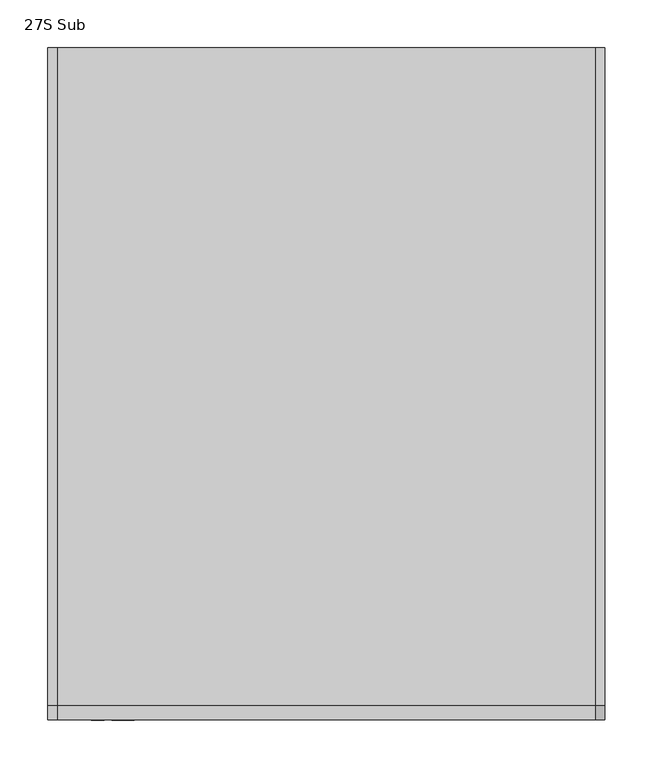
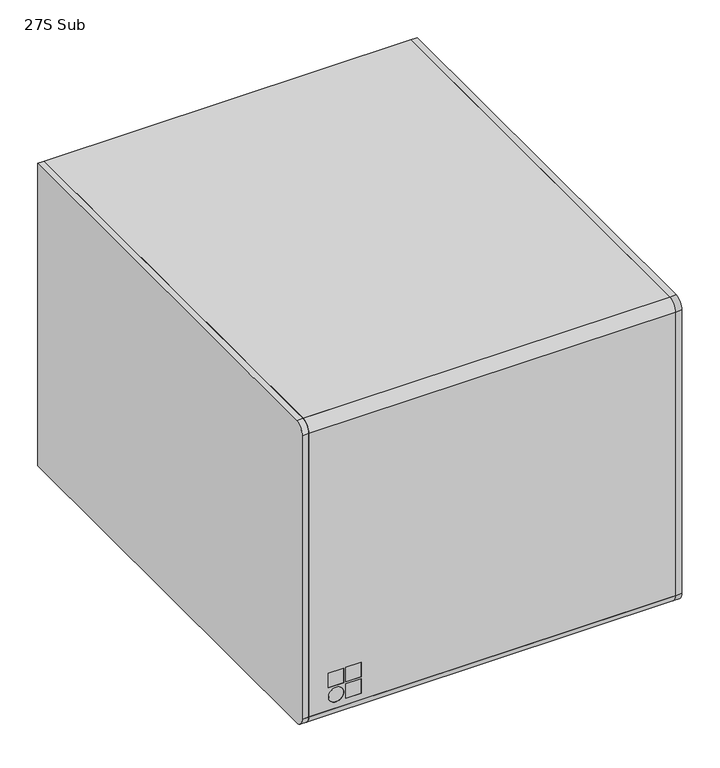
"""IFC4 building model written with IfcOpenShell, lengths in millimetres: proxy geometry, d&b xS-Series 27S Subwoofer : 27S Sub."""

from ifc_helpers import new_model, si_unit, point, frame, frame_2d, origin, place, context, project, spatial, polyline, circle_curve, trimmed, segment, composite_curve, outline, extrude, source, transform, mapped, element, save
from ifc_brep_helpers import plane_surface, cylinder_surface, revolved_surface, advanced_brep


def proxy_27s_sub_921b6ecd(model_context):
    return source(origin(), model_context, "Body", "SolidModel", [
        extrude(outline(composite_curve([segment(trimmed(circle_curve(frame_2d((-220.0, 310.0)), 18.25), [point((-201.75, 310.0))], [point((-238.25, 310.0))], False, "CARTESIAN"), True, "CONTINUOUS"), segment(trimmed(circle_curve(frame_2d((-220.0, 310.0)), 18.25), [point((-238.25, 310.0))], [point((-201.75, 310.0))], False, "CARTESIAN"), True, "CONTINUOUS")], self_intersect=False)), frame((0.0, 0.0, -247.0), z_axis=(0.0, 0.0, 1.0), x_axis=(1.0, 0.0, 0.0)), (0.0, 0.0, 1.0), 3.0),
        extrude(outline(composite_curve([segment(trimmed(circle_curve(frame_2d((220.0, 310.0)), 18.25), [point((238.25, 310.0))], [point((201.75, 310.0))], False, "CARTESIAN"), True, "CONTINUOUS"), segment(trimmed(circle_curve(frame_2d((220.0, 310.0)), 18.25), [point((201.75, 310.0))], [point((238.25, 310.0))], False, "CARTESIAN"), True, "CONTINUOUS")], self_intersect=False)), frame((0.0, 0.0, -247.0), z_axis=(0.0, 0.0, 1.0), x_axis=(1.0, 0.0, 0.0)), (0.0, 0.0, 1.0), 3.0),
        extrude(outline(composite_curve([segment(trimmed(circle_curve(frame_2d((-220.0, -285.0)), 18.25), [point((-201.75, -285.0))], [point((-238.25, -285.0))], False, "CARTESIAN"), True, "CONTINUOUS"), segment(trimmed(circle_curve(frame_2d((-220.0, -285.0)), 18.25), [point((-238.25, -285.0))], [point((-201.75, -285.0))], False, "CARTESIAN"), True, "CONTINUOUS")], self_intersect=False)), frame((0.0, 0.0, -247.0), z_axis=(0.0, 0.0, 1.0), x_axis=(1.0, 0.0, 0.0)), (0.0, 0.0, 1.0), 3.0),
        extrude(outline(composite_curve([segment(trimmed(circle_curve(frame_2d((220.0, -285.0)), 18.25), [point((238.25, -285.0))], [point((201.75, -285.0))], False, "CARTESIAN"), True, "CONTINUOUS"), segment(trimmed(circle_curve(frame_2d((220.0, -285.0)), 18.25), [point((201.75, -285.0))], [point((238.25, -285.0))], False, "CARTESIAN"), True, "CONTINUOUS")], self_intersect=False)), frame((0.0, 0.0, -247.0), z_axis=(0.0, 0.0, 1.0), x_axis=(1.0, 0.0, 0.0)), (0.0, 0.0, 1.0), 3.0),
        advanced_brep(
        [(280.0, -350.0, -229.0), (280.0, -335.0, -244.0), (280.0, -335.0, -239.0), (280.0, -345.0, -229.0), (280.0, -345.0, 229.0), (280.0, -335.0, 239.0), (280.0, -335.0, 244.0), (280.0, -350.0, 229.0), (-280.0, -350.0, -229.0), (-280.0, -350.0, 229.0), (-280.0, -335.0, 244.0), (-280.0, -335.0, 239.0), (-280.0, -345.0, 229.0), (-280.0, -345.0, -229.0), (-280.0, -335.0, -239.0), (-280.0, -335.0, -244.0), (-226.6666667, -350.0, -169.0), (-226.6666667, -350.0, -192.3333333), (-250.0, -350.0, -192.3333333), (-250.0, -350.0, -169.0), (-200.0, -350.0, -169.0), (-200.0, -350.0, -192.3333333), (-223.3333333, -350.0, -192.3333333), (-223.3333333, -350.0, -169.0), (-200.0, -350.0, -195.6666667), (-200.0, -350.0, -219.0), (-223.3333333, -350.0, -219.0), (-223.3333333, -350.0, -195.6666667), (-238.3333333, -350.0, -219.0), (-238.3333333, -350.0, -195.6666667), (-226.6666667, -345.0, -192.3333333), (-226.6666667, -345.0, -169.0), (-250.0, -345.0, -169.0), (-250.0, -345.0, -192.3333333), (-200.0, -345.0, -192.3333333), (-200.0, -345.0, -169.0), (-223.3333333, -345.0, -169.0), (-223.3333333, -345.0, -192.3333333), (-200.0, -345.0, -219.0), (-200.0, -345.0, -195.6666667), (-223.3333333, -345.0, -195.6666667), (-223.3333333, -345.0, -219.0), (-238.3333333, -345.0, -195.6666667), (-238.3333333, -345.0, -219.0)],
        [
            (0, 1, circle_curve(frame((280.0, -335.0, -229.0), z_axis=(1.0, 0.0, 0.0), x_axis=(0.0, 1.0, 0.0)), 15.0)),
            (1, 2),
            (2, 3, circle_curve(frame((280.0, -335.0, -229.0), z_axis=(-1.0, 0.0, 0.0), x_axis=(0.0, 1.0, 0.0)), 10.0)),
            (3, 4),
            (4, 5, circle_curve(frame((280.0, -335.0, 229.0), z_axis=(-1.0, 0.0, 0.0), x_axis=(0.0, 1.0, 0.0)), 10.0)),
            (5, 6),
            (6, 7, circle_curve(frame((280.0, -335.0, 229.0), z_axis=(1.0, 0.0, 0.0), x_axis=(0.0, 1.0, 0.0)), 15.0)),
            (7, 0),
            (8, 9),
            (9, 10, circle_curve(frame((-280.0, -335.0, 229.0), z_axis=(-1.0, 0.0, 0.0), x_axis=(0.0, 1.0, 0.0)), 15.0)),
            (10, 11),
            (11, 12, circle_curve(frame((-280.0, -335.0, 229.0), z_axis=(1.0, 0.0, 0.0), x_axis=(0.0, 1.0, 0.0)), 10.0)),
            (12, 13),
            (13, 14, circle_curve(frame((-280.0, -335.0, -229.0), z_axis=(1.0, 0.0, 0.0), x_axis=(0.0, 1.0, 0.0)), 10.0)),
            (14, 15),
            (15, 8, circle_curve(frame((-280.0, -335.0, -229.0), z_axis=(-1.0, 0.0, 0.0), x_axis=(0.0, 1.0, 0.0)), 15.0)),
            (6, 10),
            (9, 7),
            (8, 0),
            (16, 17),
            (17, 18),
            (18, 19),
            (19, 16),
            (20, 21),
            (21, 22),
            (22, 23),
            (23, 20),
            (24, 25),
            (25, 26),
            (26, 27),
            (27, 24),
            (28, 29, circle_curve(frame((-238.3333333, -350.0, -207.3333333), z_axis=(0.0, 1.0, 0.0), x_axis=(0.0, 0.0, 1.0)), 11.6666667)),
            (29, 28, circle_curve(frame((-238.3333333, -350.0, -207.3333333), z_axis=(0.0, 1.0, 0.0), x_axis=(0.0, 0.0, 1.0)), 11.6666667)),
            (15, 1),
            (14, 2),
            (13, 3),
            (12, 4),
            (30, 31),
            (31, 32),
            (32, 33),
            (33, 30),
            (34, 35),
            (35, 36),
            (36, 37),
            (37, 34),
            (38, 39),
            (39, 40),
            (40, 41),
            (41, 38),
            (42, 43, circle_curve(frame((-238.3333333, -345.0, -207.3333333), z_axis=(0.0, -1.0, 0.0), x_axis=(0.0, 0.0, 1.0)), 11.6666667)),
            (43, 42, circle_curve(frame((-238.3333333, -345.0, -207.3333333), z_axis=(0.0, -1.0, 0.0), x_axis=(0.0, 0.0, 1.0)), 11.6666667)),
            (11, 5),
            (16, 31),
            (30, 17),
            (33, 18),
            (32, 19),
            (20, 35),
            (34, 21),
            (37, 22),
            (36, 23),
            (24, 39),
            (38, 25),
            (41, 26),
            (40, 27),
            (28, 43),
            (42, 29),
        ],
        [
            plane_surface(frame((280.0, -320.0, -229.0), z_axis=(1.0, 0.0, 0.0), x_axis=(0.0, 0.0, 1.0))),
            plane_surface(frame((-280.0, -320.0, -229.0), z_axis=(-1.0, 0.0, 0.0), x_axis=(0.0, 0.0, -1.0))),
            cylinder_surface(frame((-280.0, -335.0, 229.0), z_axis=(1.0, 0.0, 0.0), x_axis=(0.0, 1.0, 0.0)), 15.0),
            plane_surface(frame((280.0, -350.0, 229.0), z_axis=(0.0, -1.0, 0.0), x_axis=(-1.0, 0.0, 0.0))),
            cylinder_surface(frame((-280.0, -335.0, -229.0), z_axis=(1.0, 0.0, 0.0), x_axis=(0.0, 1.0, 0.0)), 15.0),
            plane_surface(frame((280.0, -335.0, -244.0), z_axis=(0.0, 1.0, 0.0), x_axis=(-1.0, 0.0, 0.0))),
            revolved_surface(polyline([(-280.0, -325.0, -229.0), (280.0, -325.0, -229.0)]), (-280.0, -335.0, -229.0), (-1.0, 0.0, 0.0)),
            plane_surface(frame((280.0, -345.0, -229.0), z_axis=(0.0, 1.0, 0.0), x_axis=(-1.0, 0.0, 0.0))),
            revolved_surface(polyline([(-280.0, -325.0, 229.0), (280.0, -325.0, 229.0)]), (-280.0, -335.0, 229.0), (-1.0, 0.0, 0.0)),
            plane_surface(frame((280.0, -335.0, 239.0), z_axis=(0.0, 1.0, 0.0), x_axis=(-1.0, 0.0, 0.0))),
            plane_surface(frame((-226.6666667, -350.0, -192.3333333), z_axis=(-1.0, 0.0, 0.0), x_axis=(0.0, 1.0, 0.0))),
            plane_surface(frame((-250.0, -350.0, -192.3333333), z_axis=(0.0, 0.0, 1.0), x_axis=(0.0, 1.0, 0.0))),
            plane_surface(frame((-250.0, -350.0, -169.0), z_axis=(1.0, 0.0, 0.0), x_axis=(0.0, 1.0, 0.0))),
            plane_surface(frame((-226.6666667, -350.0, -169.0), z_axis=(0.0, 0.0, -1.0), x_axis=(0.0, 1.0, 0.0))),
            plane_surface(frame((-200.0, -350.0, -192.3333333), z_axis=(-1.0, 0.0, 0.0), x_axis=(0.0, 1.0, 0.0))),
            plane_surface(frame((-223.3333333, -350.0, -192.3333333), z_axis=(0.0, 0.0, 1.0), x_axis=(0.0, 1.0, 0.0))),
            plane_surface(frame((-223.3333333, -350.0, -169.0), z_axis=(1.0, 0.0, 0.0), x_axis=(0.0, 1.0, 0.0))),
            plane_surface(frame((-200.0, -350.0, -169.0), z_axis=(0.0, 0.0, -1.0), x_axis=(0.0, 1.0, 0.0))),
            plane_surface(frame((-200.0, -350.0, -219.0), z_axis=(-1.0, 0.0, 0.0), x_axis=(0.0, 1.0, 0.0))),
            plane_surface(frame((-223.3333333, -350.0, -219.0), z_axis=(0.0, 0.0, 1.0), x_axis=(0.0, 1.0, 0.0))),
            plane_surface(frame((-223.3333333, -350.0, -195.6666667), z_axis=(1.0, 0.0, 0.0), x_axis=(0.0, 1.0, 0.0))),
            plane_surface(frame((-200.0, -350.0, -195.6666667), z_axis=(0.0, 0.0, -1.0), x_axis=(0.0, 1.0, 0.0))),
            revolved_surface(polyline([(-238.3333333, -350.0, -195.66666659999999), (-238.3333333, -345.0, -195.66666659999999)]), (-238.3333333, -350.0, -207.3333333), (0.0, -1.0, 0.0)),
        ],
        [
            (0, [[1, 2, 3, 4, 5, 6, 7, 8]]),
            (1, [[9, 10, 11, 12, 13, 14, 15, 16]]),
            (2, [[-7, 17, -10, 18]]),
            (3, [[-8, -18, -9, 19], [20, 21, 22, 23], [24, 25, 26, 27], [28, 29, 30, 31], [32, 33]]),
            (4, [[-1, -19, -16, 34]]),
            (5, [[-2, -34, -15, 35]]),
            (6, [[-3, -35, -14, 36]]),
            (7, [[-4, -36, -13, 37], [38, 39, 40, 41], [42, 43, 44, 45], [46, 47, 48, 49], [50, 51]]),
            (8, [[-5, -37, -12, 52]]),
            (9, [[-6, -52, -11, -17]]),
            (10, [[53, -38, 54, -20]]),
            (11, [[-54, -41, 55, -21]]),
            (12, [[-55, -40, 56, -22]]),
            (13, [[-53, -23, -56, -39]]),
            (14, [[57, -42, 58, -24]]),
            (15, [[-58, -45, 59, -25]]),
            (16, [[-59, -44, 60, -26]]),
            (17, [[-57, -27, -60, -43]]),
            (18, [[61, -46, 62, -28]]),
            (19, [[-62, -49, 63, -29]]),
            (20, [[-63, -48, 64, -30]]),
            (21, [[-61, -31, -64, -47]]),
            (22, [[65, -50, 66, -32]]),
            (22, [[-65, -33, -66, -51]]),
        ],
    ),
        extrude(outline(polyline([(-226.6666667, -350.0), (-250.0, -350.0), (-250.0, -345.0), (-226.6666667, -345.0), (-226.6666667, -350.0)])), frame((0.0, 0.0, -192.3333333), z_axis=(0.0, 0.0, 1.0), x_axis=(1.0, 0.0, 0.0)), (0.0, 0.0, 1.0), 23.3333333),
        extrude(outline(polyline([(-200.0, -350.0), (-223.3333333, -350.0), (-223.3333333, -345.0), (-200.0, -345.0), (-200.0, -350.0)])), frame((0.0, 0.0, -192.3333333), z_axis=(0.0, 0.0, 1.0), x_axis=(1.0, 0.0, 0.0)), (0.0, 0.0, 1.0), 23.3333333),
        extrude(outline(polyline([(-200.0, -350.0), (-223.3333333, -350.0), (-223.3333333, -345.0), (-200.0, -345.0), (-200.0, -350.0)])), frame((0.0, 0.0, -219.0), z_axis=(0.0, 0.0, 1.0), x_axis=(1.0, 0.0, 0.0)), (0.0, 0.0, 1.0), 23.3333333),
        extrude(outline(composite_curve([segment(trimmed(circle_curve(frame_2d((-207.3333333, -238.3333333)), 11.6666667), [point((-219.0, -238.3333333))], [point((-195.6666667, -238.3333333))], False, "CARTESIAN"), True, "CONTINUOUS"), segment(trimmed(circle_curve(frame_2d((-207.3333333, -238.3333333)), 11.6666667), [point((-195.6666667, -238.3333333))], [point((-219.0, -238.3333333))], False, "CARTESIAN"), True, "CONTINUOUS")], self_intersect=False)), frame((0.0, -350.0, 0.0), z_axis=(0.0, 1.0, 0.0), x_axis=(0.0, 0.0, 1.0)), (0.0, 0.0, 1.0), 5.0),
        advanced_brep(
        [(280.0, 350.0, -244.0), (280.0, -335.0, -244.0), (-280.0, -335.0, -244.0), (-280.0, 350.0, -244.0), (280.0, 350.0, 244.0), (-280.0, 350.0, 244.0), (115.0, 350.0, 90.0), (105.0, 350.0, 100.0), (-105.0, 350.0, 100.0), (-115.0, 350.0, 90.0), (-115.0, 350.0, -90.0), (-105.0, 350.0, -100.0), (105.0, 350.0, -100.0), (115.0, 350.0, -90.0), (105.0, 350.0, -200.0), (115.0, 350.0, -190.0), (115.0, 350.0, -140.0), (105.0, 350.0, -130.0), (15.0, 350.0, -130.0), (5.0, 350.0, -140.0), (5.0, 350.0, -190.0), (15.0, 350.0, -200.0), (280.0, -335.0, 244.0), (-280.0, -335.0, 244.0), (280.0, -335.0, 239.0), (-280.0, -335.0, 239.0), (280.0, -345.0, 229.0), (-280.0, -345.0, 229.0), (280.0, -345.0, -229.0), (-280.0, -345.0, -229.0), (280.0, -335.0, -239.0), (-280.0, -335.0, -239.0), (105.0, 340.0, 100.0), (115.0, 340.0, 90.0), (115.0, 340.0, -90.0), (105.0, 340.0, -100.0), (-105.0, 340.0, -100.0), (-115.0, 340.0, -90.0), (-115.0, 340.0, 90.0), (-105.0, 340.0, 100.0), (115.0, 347.0, -190.0), (105.0, 347.0, -200.0), (15.0, 347.0, -200.0), (5.0, 347.0, -190.0), (5.0, 347.0, -140.0), (15.0, 347.0, -130.0), (105.0, 347.0, -130.0), (115.0, 347.0, -140.0), (95.0, 347.0, -140.0), (25.0, 347.0, -140.0), (15.0, 347.0, -150.0), (15.0, 347.0, -180.0), (25.0, 347.0, -190.0), (95.0, 347.0, -190.0), (105.0, 347.0, -180.0), (105.0, 347.0, -150.0), (25.0, 337.0, -190.0), (15.0, 337.0, -180.0), (15.0, 337.0, -150.0), (25.0, 337.0, -140.0), (46.2039304, 337.0, -140.0), (46.2039304, 337.0, -190.0), (95.0, 337.0, -140.0), (95.0, 302.0, -140.0), (46.2039304, 302.0, -140.0), (46.2039304, 302.0, -190.0), (95.0, 302.0, -190.0), (95.0, 337.0, -190.0), (105.0, 337.0, -180.0), (105.0, 302.0, -180.0), (105.0, 302.0, -150.0), (105.0, 337.0, -150.0)],
        [
            (0, 1),
            (1, 2),
            (2, 3),
            (3, 0),
            (4, 0),
            (3, 5),
            (5, 4),
            (6, 7, circle_curve(frame((105.0, 350.0, 90.0), z_axis=(0.0, -1.0, 0.0), x_axis=(-1.0, 0.0, 0.0)), 10.0)),
            (7, 8),
            (8, 9, circle_curve(frame((-105.0, 350.0, 90.0), z_axis=(0.0, -1.0, 0.0), x_axis=(-1.0, 0.0, 0.0)), 10.0)),
            (9, 10),
            (10, 11, circle_curve(frame((-105.0, 350.0, -90.0), z_axis=(0.0, -1.0, 0.0), x_axis=(-1.0, 0.0, 0.0)), 10.0)),
            (11, 12),
            (12, 13, circle_curve(frame((105.0, 350.0, -90.0), z_axis=(0.0, -1.0, 0.0), x_axis=(-1.0, 0.0, 0.0)), 10.0)),
            (13, 6),
            (14, 15, circle_curve(frame((105.0, 350.0, -190.0), z_axis=(0.0, -1.0, 0.0), x_axis=(-1.0, 0.0, 0.0)), 10.0)),
            (15, 16),
            (16, 17, circle_curve(frame((105.0, 350.0, -140.0), z_axis=(0.0, -1.0, 0.0), x_axis=(-1.0, 0.0, 0.0)), 10.0)),
            (17, 18),
            (18, 19, circle_curve(frame((15.0, 350.0, -140.0), z_axis=(0.0, -1.0, 0.0), x_axis=(-1.0, 0.0, 0.0)), 10.0)),
            (19, 20),
            (20, 21, circle_curve(frame((15.0, 350.0, -190.0), z_axis=(0.0, -1.0, 0.0), x_axis=(-1.0, 0.0, 0.0)), 10.0)),
            (21, 14),
            (22, 4),
            (5, 23),
            (23, 22),
            (24, 22),
            (23, 25),
            (25, 24),
            (26, 24, circle_curve(frame((280.0, -335.0, 229.0), z_axis=(-1.0, 0.0, 0.0), x_axis=(0.0, 1.0, 0.0)), 10.0)),
            (25, 27, circle_curve(frame((-280.0, -335.0, 229.0), z_axis=(1.0, 0.0, 0.0), x_axis=(0.0, 1.0, 0.0)), 10.0)),
            (27, 26),
            (28, 26),
            (27, 29),
            (29, 28),
            (30, 28, circle_curve(frame((280.0, -335.0, -229.0), z_axis=(-1.0, 0.0, 0.0), x_axis=(0.0, 1.0, 0.0)), 10.0)),
            (29, 31, circle_curve(frame((-280.0, -335.0, -229.0), z_axis=(1.0, 0.0, 0.0), x_axis=(0.0, 1.0, 0.0)), 10.0)),
            (31, 30),
            (1, 30),
            (31, 2),
            (32, 33, circle_curve(frame((105.0, 340.0, 90.0), z_axis=(0.0, 1.0, 0.0), x_axis=(-1.0, 0.0, 0.0)), 10.0)),
            (33, 34),
            (34, 35, circle_curve(frame((105.0, 340.0, -90.0), z_axis=(0.0, 1.0, 0.0), x_axis=(-1.0, 0.0, 0.0)), 10.0)),
            (35, 36),
            (36, 37, circle_curve(frame((-105.0, 340.0, -90.0), z_axis=(0.0, 1.0, 0.0), x_axis=(-1.0, 0.0, 0.0)), 10.0)),
            (37, 38),
            (38, 39, circle_curve(frame((-105.0, 340.0, 90.0), z_axis=(0.0, 1.0, 0.0), x_axis=(-1.0, 0.0, 0.0)), 10.0)),
            (39, 32),
            (32, 7),
            (6, 33),
            (13, 34),
            (12, 35),
            (11, 36),
            (10, 37),
            (9, 38),
            (8, 39),
            (40, 41, circle_curve(frame((105.0, 347.0, -190.0), z_axis=(0.0, 1.0, 0.0), x_axis=(-1.0, 0.0, 0.0)), 10.0)),
            (41, 42),
            (42, 43, circle_curve(frame((15.0, 347.0, -190.0), z_axis=(0.0, 1.0, 0.0), x_axis=(-1.0, 0.0, 0.0)), 10.0)),
            (43, 44),
            (44, 45, circle_curve(frame((15.0, 347.0, -140.0), z_axis=(0.0, 1.0, 0.0), x_axis=(-1.0, 0.0, 0.0)), 10.0)),
            (45, 46),
            (46, 47, circle_curve(frame((105.0, 347.0, -140.0), z_axis=(0.0, 1.0, 0.0), x_axis=(-1.0, 0.0, 0.0)), 10.0)),
            (47, 40),
            (48, 49),
            (49, 50, circle_curve(frame((25.0, 347.0, -150.0), z_axis=(0.0, -1.0, 0.0), x_axis=(-1.0, 0.0, 0.0)), 10.0)),
            (50, 51),
            (51, 52, circle_curve(frame((25.0, 347.0, -180.0), z_axis=(0.0, -1.0, 0.0), x_axis=(-1.0, 0.0, 0.0)), 10.0)),
            (52, 53),
            (53, 54, circle_curve(frame((95.0, 347.0, -180.0), z_axis=(0.0, -1.0, 0.0), x_axis=(-1.0, 0.0, 0.0)), 10.0)),
            (54, 55),
            (55, 48, circle_curve(frame((95.0, 347.0, -150.0), z_axis=(0.0, -1.0, 0.0), x_axis=(-1.0, 0.0, 0.0)), 10.0)),
            (40, 15),
            (14, 41),
            (21, 42),
            (20, 43),
            (19, 44),
            (18, 45),
            (17, 46),
            (16, 47),
            (56, 57, circle_curve(frame((25.0, 337.0, -180.0), z_axis=(0.0, 1.0, 0.0), x_axis=(-1.0, 0.0, 0.0)), 10.0)),
            (57, 58),
            (58, 59, circle_curve(frame((25.0, 337.0, -150.0), z_axis=(0.0, 1.0, 0.0), x_axis=(-1.0, 0.0, 0.0)), 10.0)),
            (59, 60),
            (60, 61),
            (61, 56),
            (48, 62),
            (62, 63),
            (63, 64),
            (64, 60),
            (59, 49),
            (58, 50),
            (57, 51),
            (56, 52),
            (61, 65),
            (65, 66),
            (66, 67),
            (67, 53),
            (67, 68, circle_curve(frame((95.0, 337.0, -180.0), z_axis=(0.0, -1.0, 0.0), x_axis=(-1.0, 0.0, 0.0)), 10.0)),
            (68, 54),
            (68, 69),
            (69, 70),
            (70, 71),
            (71, 55),
            (71, 62, circle_curve(frame((95.0, 337.0, -150.0), z_axis=(0.0, -1.0, 0.0), x_axis=(-1.0, 0.0, 0.0)), 10.0)),
            (63, 70, circle_curve(frame((95.0, 302.0, -150.0), z_axis=(0.0, 1.0, 0.0), x_axis=(-1.0, 0.0, 0.0)), 10.0)),
            (69, 66, circle_curve(frame((95.0, 302.0, -180.0), z_axis=(0.0, 1.0, 0.0), x_axis=(-1.0, 0.0, 0.0)), 10.0)),
            (65, 64),
        ],
        [
            plane_surface(frame((280.0, -335.0, -244.0), z_axis=(0.0, 0.0, -1.0), x_axis=(-1.0, 0.0, 0.0))),
            plane_surface(frame((280.0, 350.0, -244.0), z_axis=(0.0, 1.0, 0.0), x_axis=(-1.0, 0.0, 0.0))),
            plane_surface(frame((280.0, 350.0, 244.0), z_axis=(0.0, 0.0, 1.0), x_axis=(-1.0, 0.0, 0.0))),
            plane_surface(frame((280.0, -335.0, 244.0), z_axis=(0.0, -1.0, 0.0), x_axis=(-1.0, 0.0, 0.0))),
            cylinder_surface(frame((-280.0, -335.0, 229.0), z_axis=(1.0, 0.0, 0.0), x_axis=(0.0, 1.0, 0.0)), 10.0),
            plane_surface(frame((280.0, -345.0, 229.0), z_axis=(0.0, -1.0, 0.0), x_axis=(-1.0, 0.0, 0.0))),
            cylinder_surface(frame((-280.0, -335.0, -229.0), z_axis=(1.0, 0.0, 0.0), x_axis=(0.0, 1.0, 0.0)), 10.0),
            plane_surface(frame((280.0, -335.0, -239.0), z_axis=(0.0, -1.0, 0.0), x_axis=(-1.0, 0.0, 0.0))),
            plane_surface(frame((280.0, -335.0, 244.0), z_axis=(1.0, 0.0, 0.0), x_axis=(0.0, 0.0, -1.0))),
            plane_surface(frame((-280.0, -335.0, 244.0), z_axis=(-1.0, 0.0, 0.0), x_axis=(0.0, 0.0, 1.0))),
            plane_surface(frame((95.0, 340.0, 90.0), z_axis=(0.0, 1.0, 0.0), x_axis=(0.0, 0.0, -1.0))),
            revolved_surface(polyline([(95.0, 350.0, 90.0), (95.0, 340.0, 90.0)]), (105.0, 340.0, 90.0), (0.0, 1.0, 0.0)),
            plane_surface(frame((115.0, 350.0, 90.0), z_axis=(-1.0, 0.0, 0.0), x_axis=(0.0, -1.0, 0.0))),
            revolved_surface(polyline([(95.0, 350.0, -90.0), (95.0, 340.0, -90.0)]), (105.0, 340.0, -90.0), (0.0, 1.0, 0.0)),
            plane_surface(frame((105.0, 350.0, -100.0), z_axis=(0.0, 0.0, 1.0), x_axis=(0.0, -1.0, 0.0))),
            revolved_surface(polyline([(-115.0, 350.0, -90.0), (-115.0, 340.0, -90.0)]), (-105.0, 340.0, -90.0), (0.0, 1.0, 0.0)),
            plane_surface(frame((-115.0, 350.0, -90.0), z_axis=(1.0, 0.0, 0.0), x_axis=(0.0, -1.0, 0.0))),
            revolved_surface(polyline([(-115.0, 350.0, 90.0), (-115.0, 340.0, 90.0)]), (-105.0, 340.0, 90.0), (0.0, 1.0, 0.0)),
            plane_surface(frame((-105.0, 350.0, 100.0), z_axis=(0.0, 0.0, -1.0), x_axis=(0.0, -1.0, 0.0))),
            plane_surface(frame((95.0, 347.0, -190.0), z_axis=(0.0, 1.0, 0.0), x_axis=(0.0, 0.0, -1.0))),
            revolved_surface(polyline([(95.0, 350.0, -190.0), (95.0, 347.0, -190.0)]), (105.0, 347.0, -190.0), (0.0, 1.0, 0.0)),
            plane_surface(frame((105.0, 350.0, -200.0), z_axis=(0.0, 0.0, 1.0), x_axis=(0.0, -1.0, 0.0))),
            revolved_surface(polyline([(5.0, 350.0, -190.0), (5.0, 347.0, -190.0)]), (15.0, 347.0, -190.0), (0.0, 1.0, 0.0)),
            plane_surface(frame((5.0, 350.0, -190.0), z_axis=(1.0, 0.0, 0.0), x_axis=(0.0, -1.0, 0.0))),
            revolved_surface(polyline([(5.0, 350.0, -140.0), (5.0, 347.0, -140.0)]), (15.0, 347.0, -140.0), (0.0, 1.0, 0.0)),
            plane_surface(frame((15.0, 350.0, -130.0), z_axis=(0.0, 0.0, -1.0), x_axis=(0.0, -1.0, 0.0))),
            revolved_surface(polyline([(95.0, 350.0, -140.0), (95.0, 347.0, -140.0)]), (105.0, 347.0, -140.0), (0.0, 1.0, 0.0)),
            plane_surface(frame((115.0, 350.0, -140.0), z_axis=(-1.0, 0.0, 0.0), x_axis=(0.0, -1.0, 0.0))),
            plane_surface(frame((85.0, 337.0, -150.0), z_axis=(0.0, 1.0, 0.0), x_axis=(0.0, 0.0, -1.0))),
            plane_surface(frame((25.0, 347.0, -140.0), z_axis=(0.0, 0.0, -1.0), x_axis=(0.0, -1.0, 0.0))),
            revolved_surface(polyline([(15.0, 347.0, -150.0), (15.0, 337.0, -150.0)]), (25.0, 337.0, -150.0), (0.0, 1.0, 0.0)),
            plane_surface(frame((15.0, 347.0, -180.0), z_axis=(1.0, 0.0, 0.0), x_axis=(0.0, -1.0, 0.0))),
            revolved_surface(polyline([(15.0, 347.0, -180.0), (15.0, 337.0, -180.0)]), (25.0, 337.0, -180.0), (0.0, 1.0, 0.0)),
            plane_surface(frame((95.0, 347.0, -190.0), z_axis=(0.0, 0.0, 1.0), x_axis=(0.0, -1.0, 0.0))),
            revolved_surface(polyline([(85.0, 347.0, -180.0), (85.0, 337.0, -180.0)]), (95.0, 337.0, -180.0), (0.0, 1.0, 0.0)),
            plane_surface(frame((105.0, 347.0, -150.0), z_axis=(-1.0, 0.0, 0.0), x_axis=(0.0, -1.0, 0.0))),
            revolved_surface(polyline([(85.0, 347.0, -150.0), (85.0, 337.0, -150.0)]), (95.0, 337.0, -150.0), (0.0, 1.0, 0.0)),
            plane_surface(frame((95.0, 302.0, -140.0), z_axis=(0.0, 1.0, 0.0), x_axis=(-1.0, 0.0, 0.0))),
            plane_surface(frame((46.2039304, 337.0, -190.0), z_axis=(1.0, 0.0, 0.0), x_axis=(0.0, -1.0, 0.0))),
            revolved_surface(polyline([(85.0, 337.0, -150.0), (85.0, 302.0, -150.0)]), (95.0, 302.0, -150.0), (0.0, 1.0, 0.0)),
            revolved_surface(polyline([(85.0, 337.0, -180.0), (85.0, 302.0, -180.0)]), (95.0, 302.0, -180.0), (0.0, 1.0, 0.0)),
        ],
        [
            (0, [[1, 2, 3, 4]]),
            (1, [[5, -4, 6, 7], [8, 9, 10, 11, 12, 13, 14, 15], [16, 17, 18, 19, 20, 21, 22, 23]]),
            (2, [[24, -7, 25, 26]]),
            (3, [[27, -26, 28, 29]]),
            (4, [[30, -29, 31, 32]]),
            (5, [[33, -32, 34, 35]]),
            (6, [[36, -35, 37, 38]]),
            (7, [[39, -38, 40, -2]]),
            (8, [[-27, -30, -33, -36, -39, -1, -5, -24]]),
            (9, [[-25, -6, -3, -40, -37, -34, -31, -28]]),
            (10, [[41, 42, 43, 44, 45, 46, 47, 48]]),
            (11, [[-41, 49, -8, 50]]),
            (12, [[-42, -50, -15, 51]]),
            (13, [[-43, -51, -14, 52]]),
            (14, [[-44, -52, -13, 53]]),
            (15, [[-45, -53, -12, 54]]),
            (16, [[-46, -54, -11, 55]]),
            (17, [[-47, -55, -10, 56]]),
            (18, [[-48, -56, -9, -49]]),
            (19, [[57, 58, 59, 60, 61, 62, 63, 64], [65, 66, 67, 68, 69, 70, 71, 72]]),
            (20, [[-57, 73, -16, 74]]),
            (21, [[-58, -74, -23, 75]]),
            (22, [[-59, -75, -22, 76]]),
            (23, [[-60, -76, -21, 77]]),
            (24, [[-61, -77, -20, 78]]),
            (25, [[-62, -78, -19, 79]]),
            (26, [[-63, -79, -18, 80]]),
            (27, [[-64, -80, -17, -73]]),
            (28, [[81, 82, 83, 84, 85, 86]]),
            (29, [[87, 88, 89, 90, -84, 91, -65]]),
            (30, [[-83, 92, -66, -91]]),
            (31, [[-82, 93, -67, -92]]),
            (32, [[-81, 94, -68, -93]]),
            (33, [[-94, -86, 95, 96, 97, 98, -69]]),
            (34, [[-98, 99, 100, -70]]),
            (35, [[-100, 101, 102, 103, 104, -71]]),
            (36, [[-87, -72, -104, 105]]),
            (37, [[-89, 106, -102, 107, -96, 108]]),
            (38, [[-108, -95, -85, -90]]),
            (39, [[-106, -88, -105, -103]]),
            (40, [[-107, -101, -99, -97]]),
        ],
    ),
        extrude(outline(composite_curve([segment(polyline([(97.0, 105.0), (97.0, -105.0)]), True, "CONTINUOUS"), segment(trimmed(circle_curve(frame_2d((90.0, -105.0)), 7.0), [point((97.0, -105.0))], [point((90.0, -112.0))], False, "CARTESIAN"), True, "CONTINUOUS"), segment(polyline([(90.0, -112.0), (-90.0, -112.0)]), True, "CONTINUOUS"), segment(trimmed(circle_curve(frame_2d((-90.0, -105.0)), 7.0), [point((-90.0, -112.0))], [point((-97.0, -105.0))], False, "CARTESIAN"), True, "CONTINUOUS"), segment(polyline([(-97.0, -105.0), (-97.0, 105.0)]), True, "CONTINUOUS"), segment(trimmed(circle_curve(frame_2d((-90.0, 105.0)), 7.0), [point((-97.0, 105.0))], [point((-90.0, 112.0))], False, "CARTESIAN"), True, "CONTINUOUS"), segment(polyline([(-90.0, 112.0), (90.0, 112.0)]), True, "CONTINUOUS"), segment(trimmed(circle_curve(frame_2d((90.0, 105.0)), 7.0), [point((90.0, 112.0))], [point((97.0, 105.0))], False, "CARTESIAN"), True, "CONTINUOUS")], self_intersect=False)), frame((0.0, 340.0, 0.0), z_axis=(0.0, 1.0, 0.0), x_axis=(0.0, 0.0, 1.0)), (0.0, 0.0, 1.0), 10.0),
        extrude(outline(composite_curve([segment(polyline([(308.5, 207.0), (308.5, -106.0)]), True, "CONTINUOUS"), segment(trimmed(circle_curve(frame_2d((291.5, -106.0)), 17.0), [point((308.5, -106.0))], [point((291.5, -123.0))], False, "CARTESIAN"), True, "CONTINUOUS"), segment(polyline([(291.5, -123.0), (-23.5, -123.0)]), True, "CONTINUOUS"), segment(trimmed(circle_curve(frame_2d((-23.5, -106.0)), 17.0), [point((-23.5, -123.0))], [point((-40.5, -106.0))], False, "CARTESIAN"), True, "CONTINUOUS"), segment(polyline([(-40.5, -106.0), (-40.5, 207.0)]), True, "CONTINUOUS"), segment(trimmed(circle_curve(frame_2d((-23.5, 207.0)), 17.0), [point((-40.5, 207.0))], [point((-23.5, 224.0))], False, "CARTESIAN"), True, "CONTINUOUS"), segment(polyline([(-23.5, 224.0), (291.5, 224.0)]), True, "CONTINUOUS"), segment(trimmed(circle_curve(frame_2d((291.5, 207.0)), 17.0), [point((291.5, 224.0))], [point((308.5, 207.0))], False, "CARTESIAN"), True, "CONTINUOUS")], self_intersect=False)), frame((280.0, 0.0, 0.0), z_axis=(1.0, 0.0, 0.0), x_axis=(0.0, 1.0, 0.0)), (0.0, 0.0, 1.0), 10.0),
        extrude(outline(composite_curve([segment(polyline([(-335.0, 244.0), (350.0, 244.0), (350.0, -244.0), (-335.0, -244.0)]), True, "CONTINUOUS"), segment(trimmed(circle_curve(frame_2d((-335.0, -229.0)), 15.0), [point((-335.0, -244.0))], [point((-350.0, -229.0))], False, "CARTESIAN"), True, "CONTINUOUS"), segment(polyline([(-350.0, -229.0), (-350.0, 229.0)]), True, "CONTINUOUS"), segment(trimmed(circle_curve(frame_2d((-335.0, 229.0)), 15.0), [point((-350.0, 229.0))], [point((-335.0, 244.0))], False, "CARTESIAN"), True, "CONTINUOUS")], self_intersect=False), holes=[composite_curve([segment(polyline([(291.5, 227.0), (-23.5, 227.0)]), True, "CONTINUOUS"), segment(trimmed(circle_curve(frame_2d((-23.5, 207.0)), 20.0), [point((-23.5, 227.0))], [point((-43.5, 207.0))], True, "CARTESIAN"), True, "CONTINUOUS"), segment(polyline([(-43.5, 207.0), (-43.5, -106.0)]), True, "CONTINUOUS"), segment(trimmed(circle_curve(frame_2d((-23.5, -106.0)), 20.0), [point((-43.5, -106.0))], [point((-23.5, -126.0))], True, "CARTESIAN"), True, "CONTINUOUS"), segment(polyline([(-23.5, -126.0), (291.5, -126.0)]), True, "CONTINUOUS"), segment(trimmed(circle_curve(frame_2d((291.5, -106.0)), 20.0), [point((291.5, -126.0))], [point((311.5, -106.0))], True, "CARTESIAN"), True, "CONTINUOUS"), segment(polyline([(311.5, -106.0), (311.5, 207.0)]), True, "CONTINUOUS"), segment(trimmed(circle_curve(frame_2d((291.5, 207.0)), 20.0), [point((311.5, 207.0))], [point((291.5, 227.0))], True, "CARTESIAN"), True, "CONTINUOUS")], self_intersect=False)]), frame((280.0, 0.0, 0.0), z_axis=(1.0, 0.0, 0.0), x_axis=(0.0, 1.0, 0.0)), (0.0, 0.0, 1.0), 10.0),
        extrude(outline(composite_curve([segment(polyline([(-335.0, 244.0), (350.0, 244.0), (350.0, -244.0), (-335.0, -244.0)]), True, "CONTINUOUS"), segment(trimmed(circle_curve(frame_2d((-335.0, -229.0)), 15.0), [point((-335.0, -244.0))], [point((-350.0, -229.0))], False, "CARTESIAN"), True, "CONTINUOUS"), segment(polyline([(-350.0, -229.0), (-350.0, 229.0)]), True, "CONTINUOUS"), segment(trimmed(circle_curve(frame_2d((-335.0, 229.0)), 15.0), [point((-350.0, 229.0))], [point((-335.0, 244.0))], False, "CARTESIAN"), True, "CONTINUOUS")], self_intersect=False)), frame((-290.0, 0.0, 0.0), z_axis=(1.0, 0.0, 0.0), x_axis=(0.0, 1.0, 0.0)), (0.0, 0.0, 1.0), 10.0),
    ])


if __name__ == "__main__":
    model = new_model("IFC4")
    model_context = context("Model", 3, world=origin())
    ifc_project = project(units=[si_unit("LENGTHUNIT", "METRE", prefix="MILLI")], contexts=[model_context])
    site = spatial("IfcSite", under=ifc_project)
    building = spatial("IfcBuilding", under=site)
    placement = place(None, origin())
    proxy_27s_sub_shape = proxy_27s_sub_921b6ecd(model_context)
    element("IfcBuildingElementProxy", 1, Name="d&b xS-Series 27S Subwoofer : 27S Sub", ObjectType="d&b xS-Series 27S Subwoofer : 27S Sub", at=placement, inside=building, context=model_context, shape_type="MappedRepresentation", body=[
        mapped(proxy_27s_sub_shape, transform((0.0, 0.0, 0.0), x_axis=(1.0, 0.0, 0.0), y_axis=(0.0, 1.0, 0.0), z_axis=(0.0, 0.0, 1.0))),
    ])
    save(model, "model.ifc")
